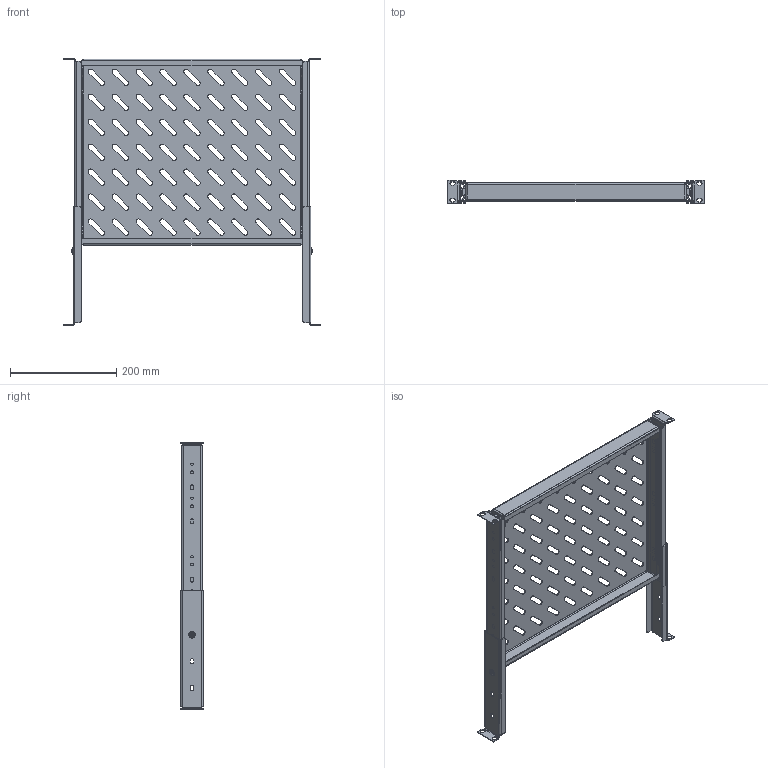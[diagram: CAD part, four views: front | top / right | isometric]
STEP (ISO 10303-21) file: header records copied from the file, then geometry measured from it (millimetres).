
FILE_DESCRIPTION (( 'STEP AP214' ), '1' );
FILE_NAME ('SH 48.35 IÌ Ïîëêà 19'''' âûäâèæíàÿ (500 ìì).STEP', '2022-08-17T13:21:33', ( '' ), ( '' ), 'SwSTEP 2.0', 'SolidWorks 2018', '' );
FILE_SCHEMA (( 'AUTOMOTIVE_DESIGN' ));
Length unit declared in the file: millimetre
Products named in the file (1): SH 48.35 IÌ Ïîëêà 19'''' âûäâèæíàÿ (500 ìì)
Bounding box: 482.6 x 43.6 x 502.8 mm (x, y, z)
Volume: 437709.6 mm3; surface area: 685669.7 mm2
Topology: 13 solids, 13 shells, 1134 faces, 2893 edges, 1778 vertices
Faces by surface type: plane 637, cylinder 473, cone 8, torus 8, sphere 4, bspline 4
Entity records: 47149 total; most frequent: DIRECTION 6127, CARTESIAN_POINT 6030, ORIENTED_EDGE 5778, EDGE_CURVE 2889, AXIS2_PLACEMENT_3D 2115, VECTOR 1897, LINE 1897, VERTEX_POINT 1778
